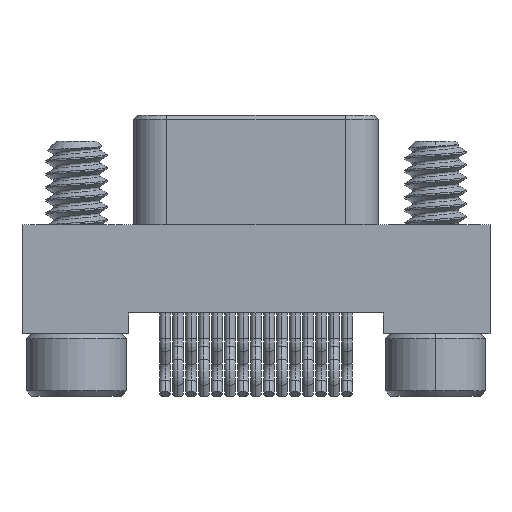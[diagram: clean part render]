
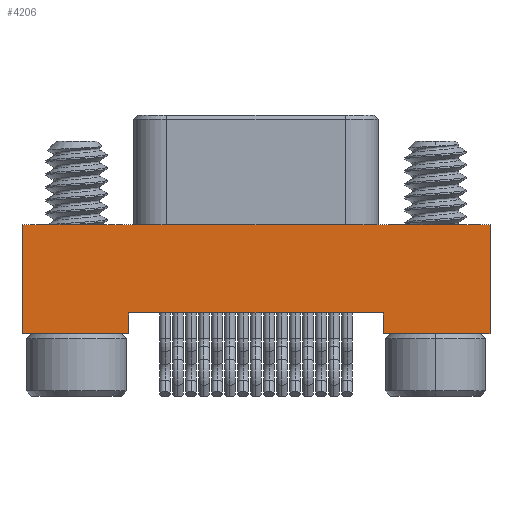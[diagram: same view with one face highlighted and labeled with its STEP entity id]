
A CAD part, front view. The second image highlights one B-rep face of the part: STEP entity #4206.
In plain terms, the highlighted planar face has unit normal (0, -1, 0).
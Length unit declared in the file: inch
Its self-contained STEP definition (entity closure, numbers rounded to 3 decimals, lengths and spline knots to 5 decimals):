
#463 = DIRECTION ( 'NONE',  ( 1., 0., 0. ) ) ;
#495 = CARTESIAN_POINT ( 'NONE',  ( 0.1225, -0.0575, -0.085 ) ) ;
#521 = CARTESIAN_POINT ( 'NONE',  ( -0.225, -0.0575, -0.105 ) ) ;
#845 = CARTESIAN_POINT ( 'NONE',  ( -0.225, -0.0575, 0.105 ) ) ;
#1061 = LINE ( 'NONE', #12761, #16143 ) ;
#1462 = CARTESIAN_POINT ( 'NONE',  ( -0.225, -0.0575, 0.105 ) ) ;
#1675 = CARTESIAN_POINT ( 'NONE',  ( -0.225, -0.0575, 0. ) ) ;
#1892 = LINE ( 'NONE', #521, #2821 ) ;
#1986 = VERTEX_POINT ( 'NONE', #7039 ) ;
#2158 = LINE ( 'NONE', #495, #5113 ) ;
#2218 = VERTEX_POINT ( 'NONE', #1675 ) ;
#2596 = EDGE_CURVE ( 'NONE', #4850, #1986, #11316, .T. ) ;
#2770 = AXIS2_PLACEMENT_3D ( 'NONE', #845, #3793, #14023 ) ;
#2821 = VECTOR ( 'NONE', #463, 39.37008 ) ;
#3276 = CARTESIAN_POINT ( 'NONE',  ( 0.225, -0.0575, 0. ) ) ;
#3324 = EDGE_CURVE ( 'NONE', #15446, #4850, #2158, .T. ) ;
#3433 = EDGE_CURVE ( 'NONE', #9837, #1986, #15411, .T. ) ;
#3793 = DIRECTION ( 'NONE',  ( 0., 1., 0. ) ) ;
#4206 = ADVANCED_FACE ( 'NONE', ( #5323 ), #6668, .F. ) ;
#4274 = CARTESIAN_POINT ( 'NONE',  ( 0.1225, -0.0575, -0.085 ) ) ;
#4520 = EDGE_CURVE ( 'NONE', #15247, #14107, #13326, .T. ) ;
#4850 = VERTEX_POINT ( 'NONE', #9305 ) ;
#5077 = DIRECTION ( 'NONE',  ( 1., 0., 0. ) ) ;
#5113 = VECTOR ( 'NONE', #16512, 39.37008 ) ;
#5323 = FACE_OUTER_BOUND ( 'NONE', #5416, .T. ) ;
#5416 = EDGE_LOOP ( 'NONE', ( #8958, #15829, #7919, #6756, #11782, #9334, #9307, #6837 ) ) ;
#5543 = VECTOR ( 'NONE', #10378, 39.37008 ) ;
#5599 = CARTESIAN_POINT ( 'NONE',  ( 0.225, -0.0575, -0.105 ) ) ;
#5725 = DIRECTION ( 'NONE',  ( 0., 0., -1. ) ) ;
#6668 = PLANE ( 'NONE',  #2770 ) ;
#6756 = ORIENTED_EDGE ( 'NONE', *, *, #4520, .F. ) ;
#6837 = ORIENTED_EDGE ( 'NONE', *, *, #2596, .F. ) ;
#6970 = VECTOR ( 'NONE', #9661, 39.37008 ) ;
#7039 = CARTESIAN_POINT ( 'NONE',  ( -0.1225, -0.0575, -0.105 ) ) ;
#7582 = EDGE_CURVE ( 'NONE', #2218, #9837, #12316, .T. ) ;
#7919 = ORIENTED_EDGE ( 'NONE', *, *, #17079, .T. ) ;
#7949 = VECTOR ( 'NONE', #17595, 39.37008 ) ;
#8244 = CARTESIAN_POINT ( 'NONE',  ( -0.1225, -0.0575, -0.085 ) ) ;
#8958 = ORIENTED_EDGE ( 'NONE', *, *, #3324, .F. ) ;
#9305 = CARTESIAN_POINT ( 'NONE',  ( -0.1225, -0.0575, -0.085 ) ) ;
#9307 = ORIENTED_EDGE ( 'NONE', *, *, #3433, .T. ) ;
#9334 = ORIENTED_EDGE ( 'NONE', *, *, #7582, .T. ) ;
#9661 = DIRECTION ( 'NONE',  ( 0., 0., -1. ) ) ;
#9837 = VERTEX_POINT ( 'NONE', #13460 ) ;
#10378 = DIRECTION ( 'NONE',  ( 0., 0., -1. ) ) ;
#10896 = EDGE_CURVE ( 'NONE', #2218, #15247, #1061, .T. ) ;
#11316 = LINE ( 'NONE', #8244, #6970 ) ;
#11782 = ORIENTED_EDGE ( 'NONE', *, *, #10896, .F. ) ;
#12316 = LINE ( 'NONE', #1462, #7949 ) ;
#12383 = CARTESIAN_POINT ( 'NONE',  ( -0.225, -0.0575, -0.105 ) ) ;
#12761 = CARTESIAN_POINT ( 'NONE',  ( -0.225, -0.0575, 0. ) ) ;
#12770 = VERTEX_POINT ( 'NONE', #17981 ) ;
#13326 = LINE ( 'NONE', #14722, #5543 ) ;
#13460 = CARTESIAN_POINT ( 'NONE',  ( -0.225, -0.0575, -0.105 ) ) ;
#14023 = DIRECTION ( 'NONE',  ( 0., 0., 1. ) ) ;
#14107 = VERTEX_POINT ( 'NONE', #5599 ) ;
#14722 = CARTESIAN_POINT ( 'NONE',  ( 0.225, -0.0575, 0.105 ) ) ;
#15247 = VERTEX_POINT ( 'NONE', #3276 ) ;
#15411 = LINE ( 'NONE', #12383, #15875 ) ;
#15446 = VERTEX_POINT ( 'NONE', #15526 ) ;
#15526 = CARTESIAN_POINT ( 'NONE',  ( 0.1225, -0.0575, -0.085 ) ) ;
#15829 = ORIENTED_EDGE ( 'NONE', *, *, #18720, .T. ) ;
#15875 = VECTOR ( 'NONE', #5077, 39.37008 ) ;
#16143 = VECTOR ( 'NONE', #17135, 39.37008 ) ;
#16512 = DIRECTION ( 'NONE',  ( -1., 0., 0. ) ) ;
#17079 = EDGE_CURVE ( 'NONE', #12770, #14107, #1892, .T. ) ;
#17135 = DIRECTION ( 'NONE',  ( 1., 0., 0. ) ) ;
#17367 = VECTOR ( 'NONE', #5725, 39.37008 ) ;
#17595 = DIRECTION ( 'NONE',  ( 0., 0., -1. ) ) ;
#17806 = LINE ( 'NONE', #4274, #17367 ) ;
#17981 = CARTESIAN_POINT ( 'NONE',  ( 0.1225, -0.0575, -0.105 ) ) ;
#18720 = EDGE_CURVE ( 'NONE', #15446, #12770, #17806, .T. ) ;
